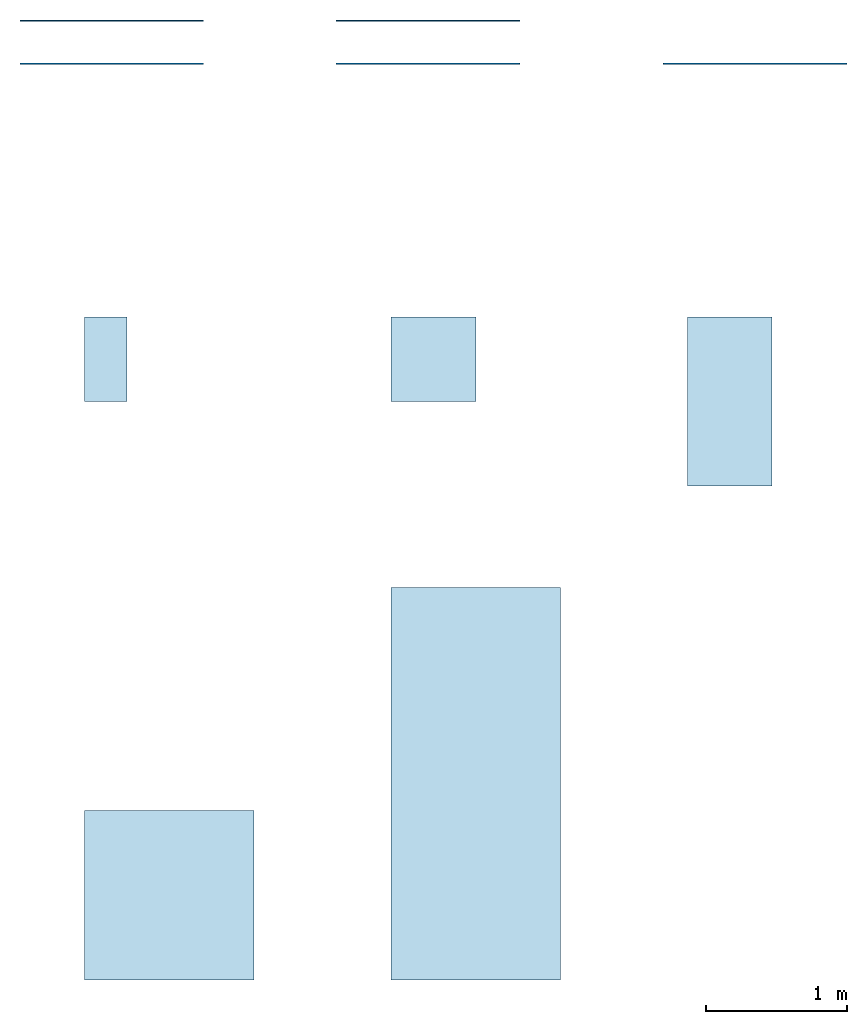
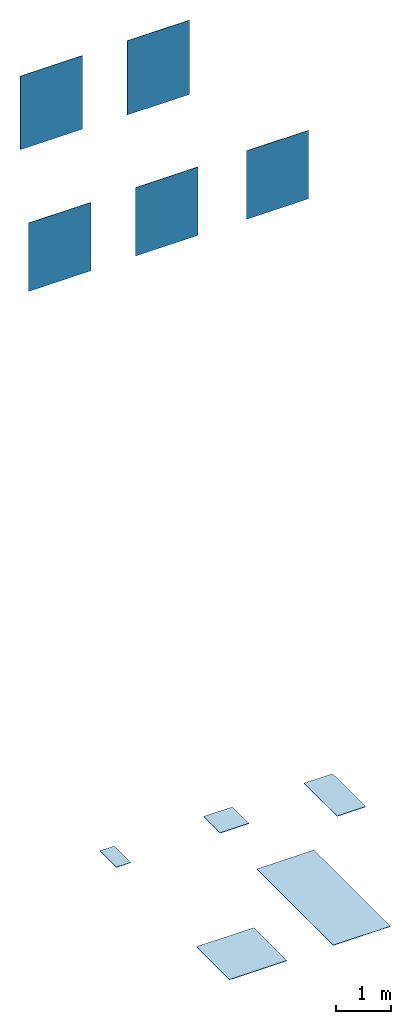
# One storey: 5 slabs, 5 walls.
"""IFC2X3 building model written with IfcOpenShell, lengths in millimetres."""

from ifc_helpers import new_model, entity, si_unit, converted_unit, derived_unit, direction, frame, frame_2d, origin, origin_2d_with_axis, place, context, subcontext, project, spatial, rectangle, extrude, material, layer, layer_set, layer_usage, type_object, element, save


model = new_model("IFC2X3")

# Units and contexts
model_context = context("Model", 3, precision=0.01, world=origin(), true_north=direction((6.12303176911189e-17, 1.0)))
body_context = subcontext(model_context, "Body", "Model", "MODEL_VIEW")
ifc_project = project(units=[si_unit("LENGTHUNIT", "METRE", prefix="MILLI"), si_unit("AREAUNIT", "SQUARE_METRE"), si_unit("VOLUMEUNIT", "CUBIC_METRE"), converted_unit("PLANEANGLEUNIT", "DEGREE", entity("IfcRatioMeasure", 0.0174532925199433), si_unit("PLANEANGLEUNIT", "RADIAN"), dimensions=[0, 0, 0, 0, 0, 0, 0]), si_unit("MASSUNIT", "GRAM", prefix="KILO"), derived_unit("MASSDENSITYUNIT", [(si_unit("MASSUNIT", "GRAM", prefix="KILO"), 1), (si_unit("LENGTHUNIT", "METRE"), -3)]), derived_unit("MOMENTOFINERTIAUNIT", [(si_unit("LENGTHUNIT", "METRE"), 4)]), si_unit("TIMEUNIT", "SECOND"), si_unit("FREQUENCYUNIT", "HERTZ"), si_unit("THERMODYNAMICTEMPERATUREUNIT", "DEGREE_CELSIUS"), derived_unit("THERMALTRANSMITTANCEUNIT", [(si_unit("MASSUNIT", "GRAM", prefix="KILO"), 1), (si_unit("THERMODYNAMICTEMPERATUREUNIT", "KELVIN"), -1), (si_unit("TIMEUNIT", "SECOND"), -3)]), derived_unit("VOLUMETRICFLOWRATEUNIT", [(si_unit("LENGTHUNIT", "METRE"), 3), (si_unit("TIMEUNIT", "SECOND"), -1)]), si_unit("ELECTRICCURRENTUNIT", "AMPERE"), si_unit("ELECTRICVOLTAGEUNIT", "VOLT"), si_unit("POWERUNIT", "WATT"), si_unit("FORCEUNIT", "NEWTON", prefix="KILO"), si_unit("ILLUMINANCEUNIT", "LUX"), si_unit("LUMINOUSFLUXUNIT", "LUMEN"), si_unit("LUMINOUSINTENSITYUNIT", "CANDELA"), derived_unit("USERDEFINED", [(si_unit("MASSUNIT", "GRAM", prefix="KILO"), -1), (si_unit("LENGTHUNIT", "METRE"), -2), (si_unit("TIMEUNIT", "SECOND"), 3), (si_unit("LUMINOUSFLUXUNIT", "LUMEN"), 1)]), derived_unit("LINEARVELOCITYUNIT", [(si_unit("LENGTHUNIT", "METRE"), 1), (si_unit("TIMEUNIT", "SECOND"), -1)]), si_unit("PRESSUREUNIT", "PASCAL"), derived_unit("USERDEFINED", [(si_unit("LENGTHUNIT", "METRE"), -2), (si_unit("MASSUNIT", "GRAM", prefix="KILO"), 1), (si_unit("TIMEUNIT", "SECOND"), -2)]), derived_unit("LINEARFORCEUNIT", [(si_unit("MASSUNIT", "GRAM", prefix="KILO"), 1), (si_unit("LENGTHUNIT", "METRE"), 1), (si_unit("TIMEUNIT", "SECOND"), -2), (si_unit("LENGTHUNIT", "METRE"), -1)]), derived_unit("PLANARFORCEUNIT", [(si_unit("MASSUNIT", "GRAM", prefix="KILO"), 1), (si_unit("LENGTHUNIT", "METRE"), 1), (si_unit("TIMEUNIT", "SECOND"), -2), (si_unit("LENGTHUNIT", "METRE"), -2)])], contexts=[model_context])

# Site, building, storey
site_placement = place(None, origin())
site = spatial("IfcSite", under=ifc_project, at=site_placement, Name="Default", CompositionType="ELEMENT")
building_placement = place(site_placement, origin())
building = spatial("IfcBuilding", under=site, at=building_placement, CompositionType="ELEMENT")
storey_placement = place(building_placement, origin())
storey = spatial("IfcBuildingStorey", under=building, at=storey_placement, Name="Level 0", CompositionType="ELEMENT", Elevation=0.0)

# Slabs
ifc_material_1 = material(Name="Play-White-30x60 OC61")
ifc_layer_1 = layer(ifc_material_1, 9.0)
ifc_material_2 = material(Name="<Unnamed>")
ifc_layer_2 = layer(ifc_material_2, 1.0)
ifc_layer_set_1 = layer_set([ifc_layer_1, ifc_layer_2], Name="Floor:Floor_Tiles_Refin-Play-White-30x60 OC61")
ifc_layer_usage_1 = layer_usage(ifc_layer_set_1, "AXIS3", "POSITIVE", 0.0)
slab_type_1 = type_object("IfcSlabType", Name="Floor:Floor_Tiles_Refin-Play-White-30x60 OC61", PredefinedType="FLOOR", material=ifc_layer_set_1)
slab_1_placement = place(storey_placement, origin())
element("IfcSlab", 1, at=slab_1_placement, inside=storey, type_object=slab_type_1, material=ifc_layer_usage_1, Name="Floor:Floor_Tiles_Refin-Play-White-30x60 OC61", ObjectType="Floor:Floor_Tiles_Refin-Play-White-30x60 OC61", PredefinedType="FLOOR", context=body_context, shape_type="SweptSolid", body=[
    extrude(rectangle(XDim=600.0, YDim=300.0, at=frame_2d((0.0, -5.40012479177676e-13), x_axis=(1.0, 0.0))), frame((6524.37520617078, 5739.4623742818, 0.0), z_axis=(0.0, 0.0, -1.0), x_axis=(0.0, 1.0, 0.0)), (0.0, 0.0, 1.0), 10.0),
])
ifc_material_3 = material(Name="Play-White-120x120 OC67")
ifc_layer_3 = layer(ifc_material_3, 9.0)
ifc_layer_4 = layer(ifc_material_2, 1.0)
ifc_layer_set_2 = layer_set([ifc_layer_3, ifc_layer_4], Name="Floor:Floor_Tiles_Refin-Play-White-120x120 OC67")
ifc_layer_usage_2 = layer_usage(ifc_layer_set_2, "AXIS3", "POSITIVE", 0.0)
slab_type_2 = type_object("IfcSlabType", Name="Floor:Floor_Tiles_Refin-Play-White-120x120 OC67", PredefinedType="FLOOR", material=ifc_layer_set_2)
slab_2_placement = place(storey_placement, origin())
element("IfcSlab", 2, at=slab_2_placement, inside=storey, type_object=slab_type_2, material=ifc_layer_usage_2, Name="Floor:Floor_Tiles_Refin-Play-White-120x120 OC67", ObjectType="Floor:Floor_Tiles_Refin-Play-White-120x120 OC67", PredefinedType="FLOOR", context=body_context, shape_type="SweptSolid", body=[
    extrude(rectangle(XDim=1200.0, YDim=1200.0, at=origin_2d_with_axis()), frame((6974.37520617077, 1939.46237428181, 0.0), z_axis=(0.0, 0.0, -1.0), x_axis=(0.0, 1.0, 0.0)), (0.0, 0.0, 1.0), 10.0),
])
ifc_material_4 = material(Name="Play-White-60x120 OC73")
ifc_layer_5 = layer(ifc_material_4, 9.0)
ifc_layer_6 = layer(ifc_material_2, 1.0)
ifc_layer_set_3 = layer_set([ifc_layer_5, ifc_layer_6], Name="Floor:Floor_Tiles_Refin-Play-White-60x120 OC73")
ifc_layer_usage_3 = layer_usage(ifc_layer_set_3, "AXIS3", "POSITIVE", 0.0)
slab_type_3 = type_object("IfcSlabType", Name="Floor:Floor_Tiles_Refin-Play-White-60x120 OC73", PredefinedType="FLOOR", material=ifc_layer_set_3)
slab_3_placement = place(storey_placement, origin())
element("IfcSlab", 3, at=slab_3_placement, inside=storey, type_object=slab_type_3, material=ifc_layer_usage_3, Name="Floor:Floor_Tiles_Refin-Play-White-60x120 OC73", ObjectType="Floor:Floor_Tiles_Refin-Play-White-60x120 OC73", PredefinedType="FLOOR", context=body_context, shape_type="SweptSolid", body=[
    extrude(rectangle(XDim=1200.0, YDim=600.0, at=frame_2d((2.27373675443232e-13, 1.08002495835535e-12), x_axis=(1.0, 0.0))), frame((10947.3924054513, 5439.46237428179, 0.0), z_axis=(0.0, 0.0, -1.0), x_axis=(0.0, 1.0, 0.0)), (0.0, 0.0, 1.0), 10.0),
])
ifc_material_5 = material(Name="Play-White-60x60 OC55")
ifc_layer_7 = layer(ifc_material_5, 9.0)
ifc_layer_8 = layer(ifc_material_2, 1.0)
ifc_layer_set_4 = layer_set([ifc_layer_7, ifc_layer_8], Name="Floor:Floor_Tiles_Refin-Play-White-60x60 OC55")
ifc_layer_usage_4 = layer_usage(ifc_layer_set_4, "AXIS3", "POSITIVE", 0.0)
slab_type_4 = type_object("IfcSlabType", Name="Floor:Floor_Tiles_Refin-Play-White-60x60 OC55", PredefinedType="FLOOR", material=ifc_layer_set_4)
slab_4_placement = place(storey_placement, origin())
element("IfcSlab", 4, at=slab_4_placement, inside=storey, type_object=slab_type_4, material=ifc_layer_usage_4, Name="Floor:Floor_Tiles_Refin-Play-White-60x60 OC55", ObjectType="Floor:Floor_Tiles_Refin-Play-White-60x60 OC55", PredefinedType="FLOOR", context=body_context, shape_type="SweptSolid", body=[
    extrude(rectangle(XDim=600.0, YDim=600.0, at=origin_2d_with_axis()), frame((8847.39240545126, 5738.41920639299, 0.0), z_axis=(0.0, 0.0, -1.0), x_axis=(0.0, 1.0, 0.0)), (0.0, 0.0, 1.0), 10.0),
])
ifc_material_6 = material(Name="Play-White-120x278 OC80")
ifc_layer_9 = layer(ifc_material_6, 9.0)
ifc_layer_10 = layer(ifc_material_2, 1.0)
ifc_layer_set_5 = layer_set([ifc_layer_9, ifc_layer_10], Name="Floor:Floor_Tiles_Refin-Play-White-120x278 OC80")
ifc_layer_usage_5 = layer_usage(ifc_layer_set_5, "AXIS3", "POSITIVE", 0.0)
slab_type_5 = type_object("IfcSlabType", Name="Floor:Floor_Tiles_Refin-Play-White-120x278 OC80", PredefinedType="FLOOR", material=ifc_layer_set_5)
slab_5_placement = place(storey_placement, origin())
element("IfcSlab", 5, at=slab_5_placement, inside=storey, type_object=slab_type_5, material=ifc_layer_usage_5, Name="Floor:Floor_Tiles_Refin-Play-White-120x278 OC80", ObjectType="Floor:Floor_Tiles_Refin-Play-White-120x278 OC80", PredefinedType="FLOOR", context=body_context, shape_type="SweptSolid", body=[
    extrude(rectangle(XDim=2780.0, YDim=1200.0, at=frame_2d((-3.41060513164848e-13, 0.0), x_axis=(1.0, 0.0))), frame((9147.39240545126, 2729.4623742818, 0.0), z_axis=(0.0, 0.0, -1.0), x_axis=(0.0, 1.0, 0.0)), (0.0, 0.0, 1.0), 10.0),
])

# Walls
ifc_layer_11 = layer(ifc_material_2, 1.0)
ifc_layer_12 = layer(ifc_material_5, 9.0)
ifc_layer_set_6 = layer_set([ifc_layer_11, ifc_layer_12], Name="Basic Wall:Wall_Tiles_Refin-Play-White-60x60 OC55")
ifc_layer_usage_6 = layer_usage(ifc_layer_set_6, "AXIS2", "NEGATIVE", 5.0)
wall_type_1 = type_object("IfcWallType", Name="Basic Wall:Wall_Tiles_Refin-Play-White-60x60 OC55", PredefinedType="STANDARD", material=ifc_layer_set_6)
wall_1_placement = place(storey_placement, frame((8157.37520617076, 8137.38386313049, 14387.6770443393)))
element("IfcWallStandardCase", 6, at=wall_1_placement, inside=storey, type_object=wall_type_1, material=ifc_layer_usage_6, Name="Basic Wall:Wall_Tiles_Refin-Play-White-60x60 OC55", ObjectType="Basic Wall:Wall_Tiles_Refin-Play-White-60x60 OC55", context=body_context, shape_type="SweptSolid", body=[
    extrude(rectangle(XDim=1300.0, YDim=9.99999999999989, at=frame_2d((650.0, 7.63833440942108e-14), x_axis=(-1.0, 0.0))), origin(), (0.0, 0.0, 1.0), 1641.74173522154),
])
ifc_layer_13 = layer(ifc_material_2, 1.0)
ifc_layer_14 = layer(ifc_material_1, 9.0)
ifc_layer_set_7 = layer_set([ifc_layer_13, ifc_layer_14], Name="Basic Wall:Wall_Tiles_Refin-Play-White-30x60 OC61")
ifc_layer_usage_7 = layer_usage(ifc_layer_set_7, "AXIS2", "NEGATIVE", 5.0)
wall_type_2 = type_object("IfcWallType", Name="Basic Wall:Wall_Tiles_Refin-Play-White-30x60 OC61", PredefinedType="STANDARD", material=ifc_layer_set_7)
wall_2_placement = place(storey_placement, frame((5917.37520617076, 8137.38386313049, 14403.726734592)))
element("IfcWallStandardCase", 7, at=wall_2_placement, inside=storey, type_object=wall_type_2, material=ifc_layer_usage_7, Name="Basic Wall:Wall_Tiles_Refin-Play-White-30x60 OC61", ObjectType="Basic Wall:Wall_Tiles_Refin-Play-White-30x60 OC61", context=body_context, shape_type="SweptSolid", body=[
    extrude(rectangle(XDim=1300.0, YDim=9.99999999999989, at=frame_2d((650.0, 7.63833440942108e-14), x_axis=(-1.0, 0.0))), origin(), (0.0, 0.0, 1.0), 1625.69204496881),
])
ifc_layer_15 = layer(ifc_material_2, 1.0)
ifc_layer_16 = layer(ifc_material_4, 9.0)
ifc_layer_set_8 = layer_set([ifc_layer_15, ifc_layer_16], Name="Basic Wall:Wall_Tiles_Refin-Play-White-60x120 OC73")
ifc_layer_usage_8 = layer_usage(ifc_layer_set_8, "AXIS2", "NEGATIVE", 5.0)
wall_type_3 = type_object("IfcWallType", Name="Basic Wall:Wall_Tiles_Refin-Play-White-60x120 OC73", PredefinedType="STANDARD", material=ifc_layer_set_8)
wall_3_placement = place(storey_placement, frame((5917.37520617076, 7832.38386313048, 11452.5436262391)))
element("IfcWallStandardCase", 8, at=wall_3_placement, inside=storey, type_object=wall_type_3, material=ifc_layer_usage_8, Name="Basic Wall:Wall_Tiles_Refin-Play-White-60x120 OC73", ObjectType="Basic Wall:Wall_Tiles_Refin-Play-White-60x120 OC73", context=body_context, shape_type="SweptSolid", body=[
    extrude(rectangle(XDim=1300.0, YDim=9.99999999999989, at=frame_2d((650.0, 0.0), x_axis=(-1.0, 0.0))), origin(), (0.0, 0.0, 1.0), 1513.19855655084),
])
ifc_layer_17 = layer(ifc_material_2, 1.0)
ifc_layer_18 = layer(ifc_material_3, 9.0)
ifc_layer_set_9 = layer_set([ifc_layer_17, ifc_layer_18], Name="Basic Wall:Wall_Tiles_Refin-Play-White-120x120 OC67")
ifc_layer_usage_9 = layer_usage(ifc_layer_set_9, "AXIS2", "NEGATIVE", 5.0)
wall_type_4 = type_object("IfcWallType", Name="Basic Wall:Wall_Tiles_Refin-Play-White-120x120 OC67", PredefinedType="STANDARD", material=ifc_layer_set_9)
wall_4_placement = place(storey_placement, frame((8157.37520617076, 7832.38386313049, 11452.5436262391)))
element("IfcWallStandardCase", 9, at=wall_4_placement, inside=storey, type_object=wall_type_4, material=ifc_layer_usage_9, Name="Basic Wall:Wall_Tiles_Refin-Play-White-120x120 OC67", ObjectType="Basic Wall:Wall_Tiles_Refin-Play-White-120x120 OC67", context=body_context, shape_type="SweptSolid", body=[
    extrude(rectangle(XDim=1300.0, YDim=9.99999999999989, at=frame_2d((650.0, 0.0), x_axis=(-1.0, 0.0))), origin(), (0.0, 0.0, 1.0), 1513.19855655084),
])
ifc_layer_19 = layer(ifc_material_2, 1.0)
ifc_layer_20 = layer(ifc_material_3, 9.0)
ifc_layer_set_10 = layer_set([ifc_layer_19, ifc_layer_20], Name="Basic Wall:Wall_Tiles_Refin-Play-White-120x278 OC80")
ifc_layer_usage_10 = layer_usage(ifc_layer_set_10, "AXIS2", "NEGATIVE", 5.0)
wall_type_5 = type_object("IfcWallType", Name="Basic Wall:Wall_Tiles_Refin-Play-White-120x278 OC80", PredefinedType="STANDARD", material=ifc_layer_set_10)
wall_5_placement = place(storey_placement, frame((10477.3752061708, 7832.38386313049, 11452.5436262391)))
element("IfcWallStandardCase", 10, at=wall_5_placement, inside=storey, type_object=wall_type_5, material=ifc_layer_usage_10, Name="Basic Wall:Wall_Tiles_Refin-Play-White-120x278 OC80", ObjectType="Basic Wall:Wall_Tiles_Refin-Play-White-120x278 OC80", context=body_context, shape_type="SweptSolid", body=[
    extrude(rectangle(XDim=1300.0, YDim=9.99999999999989, at=frame_2d((650.000000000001, 0.0), x_axis=(-1.0, 0.0))), origin(), (0.0, 0.0, 1.0), 1513.19855655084),
])

save(model, "model.ifc")
